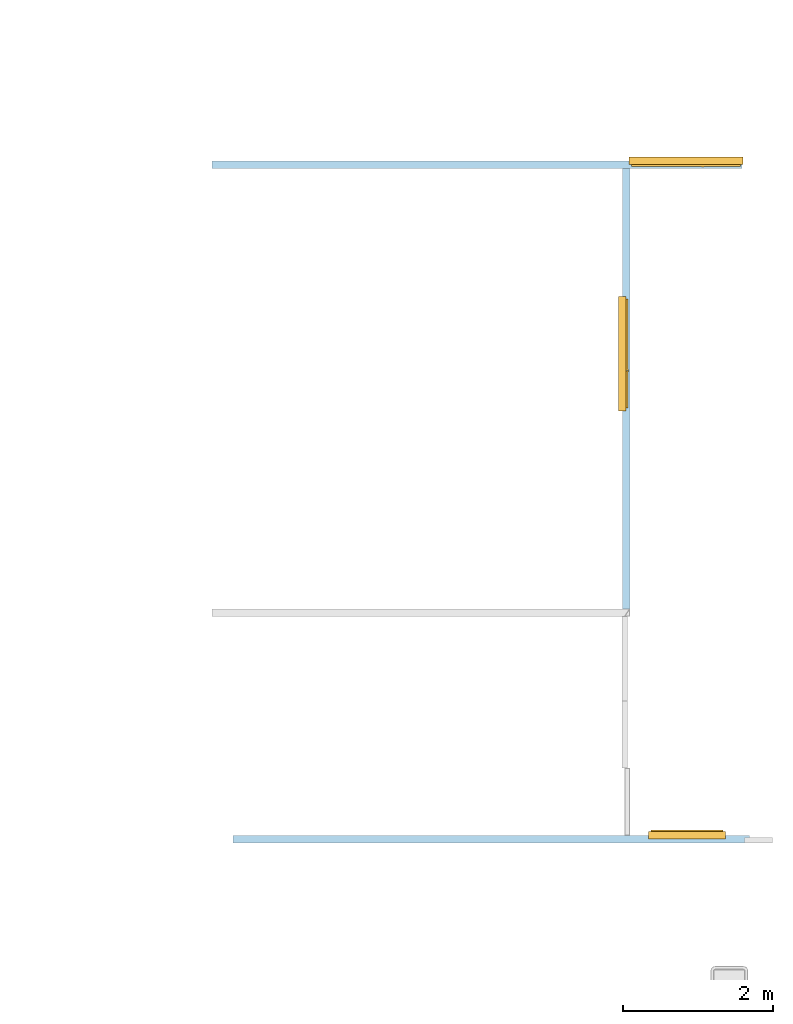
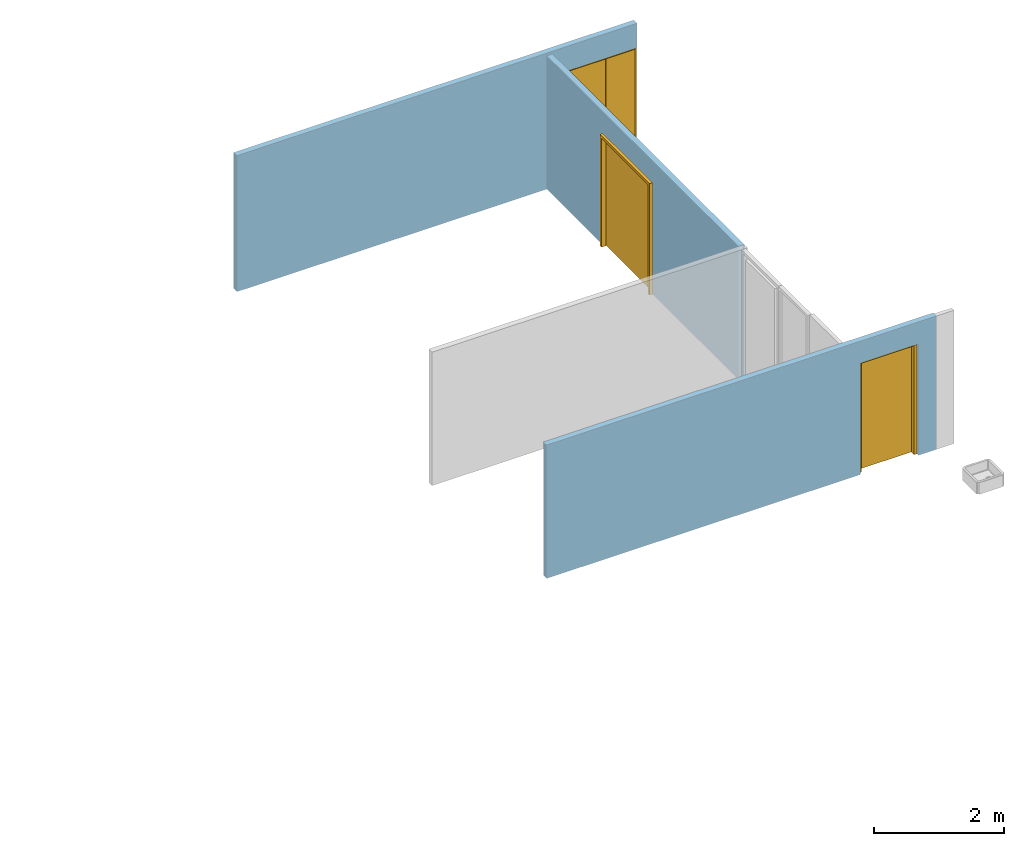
# One storey, part 27 of 51: 3 doors, 3 openings, plus 3 elements that do not belong to this part.
"""IFC2X3 building model written with IfcOpenShell, lengths in metres."""

from ifc_helpers import new_model, entity, si_unit, converted_unit, derived_unit, direction, frame, frame_2d, origin, place, context, subcontext, project, spatial, rectangle, extrude, faceted_brep, source, transform, mapped, material, layer, layer_set, layer_usage, type_object, type_shapes, element, fill, save


model = new_model("IFC2X3")

# Units and contexts
model_context = context("Model", 3, precision=1e-05, world=origin(), true_north=direction((6.123031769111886e-17, 1.0)))
body_context = subcontext(model_context, "Body", "Model", "MODEL_VIEW")
ifc_project = project(units=[si_unit("LENGTHUNIT", "METRE"), si_unit("AREAUNIT", "SQUARE_METRE"), si_unit("VOLUMEUNIT", "CUBIC_METRE"), converted_unit("PLANEANGLEUNIT", "DEGREE", entity("IfcRatioMeasure", 0.017453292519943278), si_unit("PLANEANGLEUNIT", "RADIAN"), dimensions=[0, 0, 0, 0, 0, 0, 0]), si_unit("MASSUNIT", "GRAM", prefix="KILO"), derived_unit("MASSDENSITYUNIT", [(si_unit("MASSUNIT", "GRAM", prefix="KILO"), 1), (si_unit("LENGTHUNIT", "METRE"), -3)]), derived_unit("MOMENTOFINERTIAUNIT", [(si_unit("LENGTHUNIT", "METRE"), 4)]), si_unit("TIMEUNIT", "SECOND"), si_unit("FREQUENCYUNIT", "HERTZ"), si_unit("THERMODYNAMICTEMPERATUREUNIT", "DEGREE_CELSIUS"), derived_unit("THERMALTRANSMITTANCEUNIT", [(si_unit("MASSUNIT", "GRAM", prefix="KILO"), 1), (si_unit("THERMODYNAMICTEMPERATUREUNIT", "KELVIN"), -1), (si_unit("TIMEUNIT", "SECOND"), -3)]), derived_unit("THERMALCONDUCTANCEUNIT", [(si_unit("MASSUNIT", "GRAM", prefix="KILO"), 1), (si_unit("LENGTHUNIT", "METRE"), 1), (si_unit("THERMODYNAMICTEMPERATUREUNIT", "KELVIN"), -1), (si_unit("TIMEUNIT", "SECOND"), -3)]), derived_unit("VOLUMETRICFLOWRATEUNIT", [(si_unit("LENGTHUNIT", "METRE"), 3), (si_unit("TIMEUNIT", "SECOND"), -1)]), derived_unit("MASSFLOWRATEUNIT", [(si_unit("MASSUNIT", "GRAM", prefix="KILO"), 1), (si_unit("TIMEUNIT", "SECOND"), -1)]), derived_unit("ROTATIONALFREQUENCYUNIT", [(si_unit("TIMEUNIT", "SECOND"), -1)]), si_unit("ELECTRICCURRENTUNIT", "AMPERE"), si_unit("ELECTRICVOLTAGEUNIT", "VOLT"), si_unit("POWERUNIT", "WATT"), si_unit("FORCEUNIT", "NEWTON", prefix="KILO"), si_unit("ILLUMINANCEUNIT", "LUX"), si_unit("LUMINOUSFLUXUNIT", "LUMEN"), si_unit("LUMINOUSINTENSITYUNIT", "CANDELA"), derived_unit("USERDEFINED", [(si_unit("MASSUNIT", "GRAM", prefix="KILO"), -1), (si_unit("LENGTHUNIT", "METRE"), -2), (si_unit("TIMEUNIT", "SECOND"), 3), (si_unit("LUMINOUSFLUXUNIT", "LUMEN"), 1)]), derived_unit("USERDEFINED", [(si_unit("MASSUNIT", "GRAM", prefix="KILO"), 1), (si_unit("LENGTHUNIT", "METRE"), 3), (si_unit("TIMEUNIT", "SECOND"), -3), (si_unit("ELECTRICCURRENTUNIT", "AMPERE"), -2)]), derived_unit("USERDEFINED", [(si_unit("LENGTHUNIT", "METRE"), 2), (si_unit("TIMEUNIT", "SECOND"), -2)]), derived_unit("SOUNDPOWERUNIT", [(si_unit("MASSUNIT", "GRAM", prefix="KILO"), 1), (si_unit("LENGTHUNIT", "METRE"), 2), (si_unit("TIMEUNIT", "SECOND"), -3)]), derived_unit("SOUNDPRESSUREUNIT", [(si_unit("MASSUNIT", "GRAM", prefix="KILO"), 1), (si_unit("LENGTHUNIT", "METRE"), -1), (si_unit("TIMEUNIT", "SECOND"), -2)]), derived_unit("LINEARVELOCITYUNIT", [(si_unit("LENGTHUNIT", "METRE"), 1), (si_unit("TIMEUNIT", "SECOND"), -1)]), si_unit("PRESSUREUNIT", "PASCAL"), derived_unit("USERDEFINED", [(si_unit("LENGTHUNIT", "METRE"), -2), (si_unit("MASSUNIT", "GRAM", prefix="KILO"), 1), (si_unit("TIMEUNIT", "SECOND"), -2)]), derived_unit("LINEARFORCEUNIT", [(si_unit("MASSUNIT", "GRAM", prefix="KILO"), 1), (si_unit("LENGTHUNIT", "METRE"), 1), (si_unit("TIMEUNIT", "SECOND"), -2), (si_unit("LENGTHUNIT", "METRE"), -1)]), derived_unit("PLANARFORCEUNIT", [(si_unit("MASSUNIT", "GRAM", prefix="KILO"), 1), (si_unit("LENGTHUNIT", "METRE"), 1), (si_unit("TIMEUNIT", "SECOND"), -2), (si_unit("LENGTHUNIT", "METRE"), -2)]), derived_unit("SPECIFICHEATCAPACITYUNIT", [(si_unit("LENGTHUNIT", "METRE"), 2), (si_unit("TIMEUNIT", "SECOND"), -2), (si_unit("THERMODYNAMICTEMPERATUREUNIT", "KELVIN"), -1)]), derived_unit("VAPORPERMEABILITYUNIT", [(si_unit("TIMEUNIT", "SECOND"), 1), (si_unit("LENGTHUNIT", "METRE"), -1)]), derived_unit("DYNAMICVISCOSITYUNIT", [(si_unit("MASSUNIT", "GRAM", prefix="KILO"), 1), (si_unit("LENGTHUNIT", "METRE"), -1), (si_unit("TIMEUNIT", "SECOND"), -1)]), derived_unit("THERMALEXPANSIONCOEFFICIENTUNIT", [(si_unit("THERMODYNAMICTEMPERATUREUNIT", "KELVIN"), -1)])], contexts=[model_context])

# Site, building, storey
site_placement = place(None, origin())
site = spatial("IfcSite", under=ifc_project, at=site_placement, Name="Default", CompositionType="ELEMENT")
building_placement = place(site_placement, origin())
building = spatial("IfcBuilding", under=site, at=building_placement, CompositionType="ELEMENT")
storey_placement = place(building_placement, frame((0.0, 0.0, 3.06)))
storey = spatial("IfcBuildingStorey", under=building, at=storey_placement, Name="ÉTAGE", CompositionType="ELEMENT", Elevation=3.06)

# Wall, opening, door
ifc_material_1 = material(Name="Plâtre - Plaques de plâtre")
ifc_layer_1 = layer(ifc_material_1, 0.013)
ifc_layer_2 = layer(ifc_material_1, 0.013)
ifc_material_2 = material(Name="Isolation - Fibre de verre")
ifc_layer_3 = layer(ifc_material_2, 0.048)
ifc_layer_4 = layer(ifc_material_1, 0.013)
ifc_layer_5 = layer(ifc_material_1, 0.013)
ifc_layer_set = layer_set([ifc_layer_1, ifc_layer_2, ifc_layer_3, ifc_layer_4, ifc_layer_5], Name="Mur de base:ABA cloison 10cm 100")
ifc_layer_usage = layer_usage(ifc_layer_set, "AXIS2", "NEGATIVE", 0.05)
wall_type = type_object("IfcWallType", Name="Mur de base:ABA cloison 10cm 100", PredefinedType="STANDARD", material=ifc_layer_set)
wall_1_placement = place(storey_placement, frame((348.49075224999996, 19.9772094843, 1.21), z_axis=(0.0, 0.0, 1.0), x_axis=(-1.0, 0.0, 0.0)))
wall_1 = element("IfcWallStandardCase", 1, at=wall_1_placement, inside=storey, type_object=wall_type, material=ifc_layer_usage, Name="MurExt-016", ObjectType="Mur de base:ABA cloison 10cm 100", context=body_context, shape_type="SweptSolid", body=[
    extrude(rectangle(XDim=7.089999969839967, YDim=0.10000000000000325, at=frame_2d((3.5449999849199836, 0.0), x_axis=(-1.0, 0.0))), origin(), (0.0, 0.0, 1.0), 2.5500000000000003),
])
opening_1_placement = place(wall_1_placement, frame((348.49075224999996, 19.9772094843, -1.2099999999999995), z_axis=(0.0, 0.0, 1.0), x_axis=(-1.0, 0.0, 0.0)))
opening_1 = element("IfcOpeningElement", 2, at=opening_1_placement, cuts=wall_1, Name="MurExt-016", ObjectType="Opening", context=body_context, shape_type="SweptSolid", body=[
    extrude(rectangle(XDim=2.089999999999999, YDim=1.5300000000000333, at=frame_2d((0.0, -3.4638958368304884e-14), x_axis=(1.0, 0.0))), frame((347.74075226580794, 20.0792094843, 2.254999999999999), z_axis=(0.0, -1.0, 0.0), x_axis=(0.0, 0.0, 1.0)), (0.0, 0.0, 1.0), 0.20399999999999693),
])
ifc_material_3 = material(Name="Peinture - Gris clair")
door_style_1 = type_object("IfcDoorStyle", Name="Por-004", ConstructionType="NOTDEFINED", OperationType="DOUBLE_DOOR_SINGLE_SWING", ParameterTakesPrecedence=False, Sizeable=False, material=ifc_material_3)
shared_shape_1 = source(origin(), body_context, "Body", "Brep", [
    faceted_brep([(1.5300000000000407, -0.10200000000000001, 0.0), (1.4950000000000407, -0.10200000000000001, 0.0), (1.4950000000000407, -0.10200000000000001, 2.0549999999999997), (0.03500000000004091, -0.10200000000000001, 2.0549999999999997), (0.03500000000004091, -0.10200000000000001, 0.0), (0.0, -0.10200000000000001, 0.0), (0.0, -0.10200000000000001, 2.089999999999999), (1.5300000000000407, -0.10200000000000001, 2.089999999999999), (1.5300000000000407, -0.20200000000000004, 0.0), (1.4800000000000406, -0.20200000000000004, 0.0), (1.4800000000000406, -0.117, 0.0), (1.4950000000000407, -0.117, 0.0), (1.4950000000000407, -0.117, 2.0549999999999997), (0.03500000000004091, -0.117, 2.0549999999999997), (0.03500000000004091, -0.117, 0.0), (0.05000000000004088, -0.117, 0.0), (0.05000000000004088, -0.20200000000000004, 0.0), (0.0, -0.20200000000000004, 0.0), (0.0, -0.20200000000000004, 2.089999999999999), (1.5300000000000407, -0.20200000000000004, 2.089999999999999), (0.05000000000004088, -0.20200000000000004, 2.0399999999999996), (1.4800000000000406, -0.20200000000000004, 2.0399999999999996), (1.4800000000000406, -0.117, 2.0399999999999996), (0.05000000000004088, -0.117, 2.0399999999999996), (0.03750000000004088, -0.07700000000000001, 0.0), (0.537500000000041, -0.07700000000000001, 0.0), (0.537500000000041, -0.117, 0.0), (0.03750000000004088, -0.117, 0.0), (0.03750000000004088, -0.07700000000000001, 2.0549999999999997), (0.537500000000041, -0.07700000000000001, 2.0549999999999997), (0.5375000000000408, -0.117, 2.0549999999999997), (0.03750000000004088, -0.117, 2.0549999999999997), (1.4950000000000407, -0.07700000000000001, 0.0), (0.5400000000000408, -0.117, 0.0), (0.5400000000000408, -0.07700000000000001, 0.0), (1.4950000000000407, -0.07700000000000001, 2.0549999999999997), (0.5400000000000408, -0.117, 2.0549999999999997), (0.5400000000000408, -0.07700000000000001, 2.0549999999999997), (0.5550000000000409, -0.07200000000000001, 0.0), (0.5250000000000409, -0.07200000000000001, 0.0), (0.5250000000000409, -0.07200000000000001, 2.0549999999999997), (0.5550000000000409, -0.07200000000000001, 2.0549999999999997), (0.5550000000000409, -0.07700000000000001, 0.0), (0.5250000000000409, -0.07700000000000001, 0.0), (0.5250000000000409, -0.07700000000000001, 2.0549999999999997), (0.5550000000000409, -0.07700000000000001, 2.0549999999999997)], [[[0, 1, 2, 3, 4, 5, 6, 7]], [[0, 8, 9, 10, 11, 1]], [[1, 11, 12, 2]], [[2, 12, 13, 3]], [[3, 13, 14, 4]], [[5, 4, 14, 15, 16, 17]], [[18, 6, 5, 17]], [[19, 7, 6, 18]], [[8, 0, 7, 19]], [[9, 8, 19, 18, 17, 16, 20, 21]], [[10, 9, 21, 22]], [[11, 10, 22, 23, 15, 14, 13, 12]], [[23, 20, 16, 15]], [[22, 21, 20, 23]], [[24, 25, 26, 27]], [[24, 28, 29, 25]], [[25, 29, 30, 26]], [[27, 26, 30, 31]], [[28, 24, 27, 31]], [[29, 28, 31, 30]], [[32, 11, 33, 34]], [[35, 12, 11, 32]], [[11, 12, 36, 33]], [[34, 33, 36, 37]], [[32, 34, 37, 35]], [[37, 36, 12, 35]], [[38, 39, 40, 41]], [[39, 38, 42, 43]], [[40, 39, 43, 44]], [[41, 40, 44, 45]], [[38, 41, 45, 42]], [[43, 42, 45, 44]]]),
])
type_shapes(door_style_1, [shared_shape_1])
door_1_placement = place(opening_1_placement, frame((348.505752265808, 19.875209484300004, 1.2099999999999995), z_axis=(0.0, 0.0, 1.0), x_axis=(-1.0, 0.0, 0.0)))
door_1 = element("IfcDoor", 3, at=door_1_placement, inside=storey, type_object=door_style_1, material=ifc_material_3, Name="Por-004 802047:Por-004 802047", ObjectType="Por-004 802047:Por-004 802047", OverallHeight=2.089999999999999, OverallWidth=1.5300000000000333, context=body_context, shape_type="MappedRepresentation", body=[
    mapped(shared_shape_1, transform((0.0, 0.0, 0.0), scale=1.0)),
])
fill(opening_1, door_1)

wall_2_placement = place(storey_placement, frame((348.59075228, 10.957209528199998, 1.2099999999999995), z_axis=(0.0, 0.0, 1.0), x_axis=(-1.0, 0.0, 0.0)))
wall_2 = element("IfcWallStandardCase", 4, at=wall_2_placement, inside=storey, type_object=wall_type, material=ifc_layer_usage, Name="MurExt-018", ObjectType="Mur de base:ABA cloison 10cm 100", context=body_context, shape_type="SweptSolid", body=[
    extrude(rectangle(XDim=6.909999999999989, YDim=0.09999999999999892, at=frame_2d((3.4549999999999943, 0.0), x_axis=(1.0, 0.0))), origin(), (0.0, 0.0, 1.0), 2.499999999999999),
])
opening_2_placement = place(wall_2_placement, frame((348.59075228, 10.957209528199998, -1.2099999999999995), z_axis=(0.0, 0.0, 1.0), x_axis=(-1.0, 0.0, 0.0)))
opening_2 = element("IfcOpeningElement", 5, at=opening_2_placement, cuts=wall_2, Name="MurExt-018", ObjectType="Opening", context=body_context, shape_type="SweptSolid", body=[
    extrude(rectangle(XDim=2.089999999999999, YDim=1.0300000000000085, at=frame_2d((0.0, 0.0), x_axis=(0.0, 1.0))), frame((347.75575228, 11.059209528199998, 2.254999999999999), z_axis=(0.0, -1.0, 0.0), x_axis=(1.0, 0.0, 0.0)), (0.0, 0.0, 1.0), 0.20400000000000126),
])
door_style_2 = type_object("IfcDoorStyle", Name="Por-004", ConstructionType="NOTDEFINED", OperationType="SINGLE_SWING_RIGHT", ParameterTakesPrecedence=False, Sizeable=False, material=ifc_material_3)
shared_shape_2 = source(origin(), body_context, "Body", "Brep", [
    faceted_brep([(1.0300000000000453, 0.20199999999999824, 0.0), (0.9950000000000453, 0.20199999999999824, 0.0), (0.9950000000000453, 0.20199999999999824, 2.0549999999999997), (0.03500000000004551, 0.20199999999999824, 2.0549999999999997), (0.03500000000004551, 0.20199999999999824, 0.0), (0.0, 0.20199999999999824, 0.0), (0.0, 0.20199999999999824, 2.089999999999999), (1.0300000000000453, 0.20199999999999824, 2.089999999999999), (1.0300000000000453, 0.10199999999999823, 0.0), (0.9800000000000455, 0.10199999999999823, 0.0), (0.9800000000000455, 0.18699999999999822, 0.0), (0.9950000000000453, 0.18699999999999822, 0.0), (0.9950000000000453, 0.18699999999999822, 2.0549999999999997), (0.03500000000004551, 0.18699999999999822, 2.0549999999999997), (0.03500000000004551, 0.18699999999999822, 0.0), (0.05000000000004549, 0.18699999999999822, 0.0), (0.05000000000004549, 0.10199999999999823, 0.0), (0.0, 0.10199999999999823, 0.0), (0.0, 0.10199999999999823, 2.089999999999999), (1.0300000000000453, 0.10199999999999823, 2.089999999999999), (0.05000000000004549, 0.10199999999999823, 2.0399999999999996), (0.9800000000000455, 0.10199999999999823, 2.0399999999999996), (0.9800000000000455, 0.18699999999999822, 2.0399999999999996), (0.05000000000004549, 0.18699999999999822, 2.0399999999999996), (0.9950000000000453, 0.2269999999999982, 0.0), (0.03500000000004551, 0.2269999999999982, 0.0), (0.9950000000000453, 0.2269999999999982, 2.0549999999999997), (0.03500000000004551, 0.2269999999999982, 2.0549999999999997)], [[[0, 1, 2, 3, 4, 5, 6, 7]], [[0, 8, 9, 10, 11, 1]], [[1, 11, 12, 2]], [[2, 12, 13, 3]], [[3, 13, 14, 4]], [[5, 4, 14, 15, 16, 17]], [[18, 6, 5, 17]], [[19, 7, 6, 18]], [[8, 0, 7, 19]], [[9, 8, 19, 18, 17, 16, 20, 21]], [[10, 9, 21, 22]], [[11, 10, 22, 23, 15, 14, 13, 12]], [[23, 20, 16, 15]], [[22, 21, 20, 23]], [[24, 11, 14, 25]], [[26, 12, 11, 24]], [[11, 12, 13, 14]], [[25, 14, 13, 27]], [[24, 25, 27, 26]], [[27, 13, 12, 26]]]),
])
type_shapes(door_style_2, [shared_shape_2])
door_2_placement = place(opening_2_placement, frame((347.24075228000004, 10.855209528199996, 1.2099999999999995)))
door_2 = element("IfcDoor", 6, at=door_2_placement, inside=storey, type_object=door_style_2, material=ifc_material_3, Name="Por-004 802370:Por-004 802370", ObjectType="Por-004 802370:Por-004 802370", OverallHeight=2.089999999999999, OverallWidth=1.0300000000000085, context=body_context, shape_type="MappedRepresentation", body=[
    mapped(shared_shape_2, transform((0.0, 0.0, 0.0), scale=1.0)),
])
fill(opening_2, door_2)

wall_3_placement = place(storey_placement, frame((346.94075226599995, 19.9272094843, 1.2099999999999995), z_axis=(0.0, 0.0, 1.0), x_axis=(0.0, -1.0, 0.0)))
wall_3 = element("IfcWallStandardCase", 7, at=wall_3_placement, inside=storey, type_object=wall_type, material=ifc_layer_usage, Name="MurExt-017", ObjectType="Mur de base:ABA cloison 10cm 100", context=body_context, shape_type="SweptSolid", body=[
    extrude(rectangle(XDim=5.89, YDim=0.10000000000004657, at=frame_2d((2.945, 0.0), x_axis=(-1.0, 0.0))), origin(), (0.0, 0.0, 1.0), 2.499999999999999),
])
opening_3_placement = place(wall_3_placement, frame((19.9272094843, -346.94075226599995, -1.2099999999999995), z_axis=(0.0, 0.0, 1.0), x_axis=(0.0, 1.0, 0.0)))
opening_3 = element("IfcOpeningElement", 8, at=opening_3_placement, cuts=wall_3, Name="MurExt-017", ObjectType="Opening", context=body_context, shape_type="SweptSolid", body=[
    extrude(rectangle(XDim=2.09, YDim=1.530000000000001, at=frame_2d((-1.1102230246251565e-15, 3.3306690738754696e-16), x_axis=(0.0, 1.0))), frame((346.838752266, 17.44720955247, 2.254999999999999), z_axis=(1.0, 0.0, 0.0), x_axis=(0.0, -1.0, 0.0)), (0.0, 0.0, 1.0), 0.20400000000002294),
])
door_style_3 = type_object("IfcDoorStyle", Name="Por-004", ConstructionType="NOTDEFINED", OperationType="DOUBLE_DOOR_SINGLE_SWING", ParameterTakesPrecedence=False, Sizeable=False, material=ifc_material_3)
shared_shape_3 = source(origin(), body_context, "Body", "Brep", [
    faceted_brep([(0.0, -0.10200000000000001, 0.0), (0.0, -0.10200000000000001, 2.089999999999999), (1.530000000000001, -0.10200000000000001, 2.089999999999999), (1.530000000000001, -0.10200000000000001, 0.0), (1.495000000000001, -0.10200000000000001, 0.0), (1.495000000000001, -0.10200000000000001, 2.0549999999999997), (0.035000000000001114, -0.10200000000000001, 2.0549999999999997), (0.035000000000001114, -0.10200000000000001, 0.0), (0.0, -0.20200000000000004, 0.0), (0.0, -0.20200000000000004, 2.089999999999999), (1.530000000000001, -0.20200000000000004, 2.089999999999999), (1.530000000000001, -0.20200000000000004, 0.0), (1.4800000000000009, -0.20200000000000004, 0.0), (1.4800000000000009, -0.117, 0.0), (1.495000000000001, -0.117, 0.0), (1.495000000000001, -0.117, 2.0549999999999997), (0.035000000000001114, -0.117, 2.0549999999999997), (0.035000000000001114, -0.117, 0.0), (0.050000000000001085, -0.117, 0.0), (0.050000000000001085, -0.20200000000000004, 0.0), (1.4800000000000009, -0.20200000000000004, 2.0399999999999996), (0.050000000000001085, -0.20200000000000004, 2.0399999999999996), (1.4800000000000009, -0.117, 2.0399999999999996), (0.050000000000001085, -0.117, 2.0399999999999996), (1.492500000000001, -0.07700000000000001, 0.0), (1.492500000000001, -0.117, 0.0), (0.9925000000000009, -0.117, 0.0), (0.9925000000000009, -0.07700000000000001, 0.0), (1.492500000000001, -0.07700000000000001, 2.0549999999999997), (1.492500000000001, -0.117, 2.0549999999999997), (0.9925000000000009, -0.117, 2.0549999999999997), (0.9925000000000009, -0.07700000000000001, 2.0549999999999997), (0.035000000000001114, -0.07700000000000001, 0.0), (0.990000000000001, -0.07700000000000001, 0.0), (0.990000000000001, -0.117, 0.0), (0.035000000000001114, -0.07700000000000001, 2.0549999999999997), (0.990000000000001, -0.07700000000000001, 2.0549999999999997), (0.990000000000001, -0.117, 2.0549999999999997), (0.975000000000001, -0.07200000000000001, 0.0), (0.975000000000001, -0.07200000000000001, 2.0549999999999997), (1.005000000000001, -0.07200000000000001, 2.0549999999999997), (1.005000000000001, -0.07200000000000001, 0.0), (0.975000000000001, -0.07700000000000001, 0.0), (0.975000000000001, -0.07700000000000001, 2.0549999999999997), (1.005000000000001, -0.07700000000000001, 2.0549999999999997), (1.005000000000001, -0.07700000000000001, 0.0)], [[[0, 1, 2, 3, 4, 5, 6, 7]], [[8, 9, 1, 0]], [[9, 10, 2, 1]], [[10, 11, 3, 2]], [[3, 11, 12, 13, 14, 4]], [[5, 4, 14, 15]], [[6, 5, 15, 16]], [[7, 6, 16, 17]], [[0, 7, 17, 18, 19, 8]], [[19, 8, 9, 10, 11, 12, 20, 21]], [[22, 13, 12, 20]], [[17, 16, 15, 14, 13, 22, 23, 18]], [[18, 23, 21, 19]], [[23, 22, 20, 21]], [[24, 25, 26, 27]], [[28, 29, 25, 24]], [[25, 29, 30, 26]], [[27, 26, 30, 31]], [[24, 27, 31, 28]], [[31, 30, 29, 28]], [[32, 33, 34, 17]], [[32, 35, 36, 33]], [[33, 36, 37, 34]], [[17, 34, 37, 16]], [[35, 32, 17, 16]], [[36, 35, 16, 37]], [[38, 39, 40, 41]], [[38, 42, 43, 39]], [[39, 43, 44, 40]], [[40, 44, 45, 41]], [[41, 45, 42, 38]], [[45, 44, 43, 42]]]),
])
type_shapes(door_style_3, [shared_shape_3])
door_3_placement = place(opening_3_placement, frame((347.042752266, 18.21220955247, 1.2099999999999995), z_axis=(0.0, 0.0, 1.0), x_axis=(0.0, -1.0, 0.0)))
door_3 = element("IfcDoor", 9, at=door_3_placement, inside=storey, type_object=door_style_3, material=ifc_material_3, Name="Por-004 803945:Por-004 803945", ObjectType="Por-004 803945:Por-004 803945", OverallHeight=2.09, OverallWidth=1.530000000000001, context=body_context, shape_type="MappedRepresentation", body=[
    mapped(shared_shape_3, transform((0.0, 0.0, 0.0), scale=1.0)),
])
fill(opening_3, door_3)

save(model, "model.ifc")
